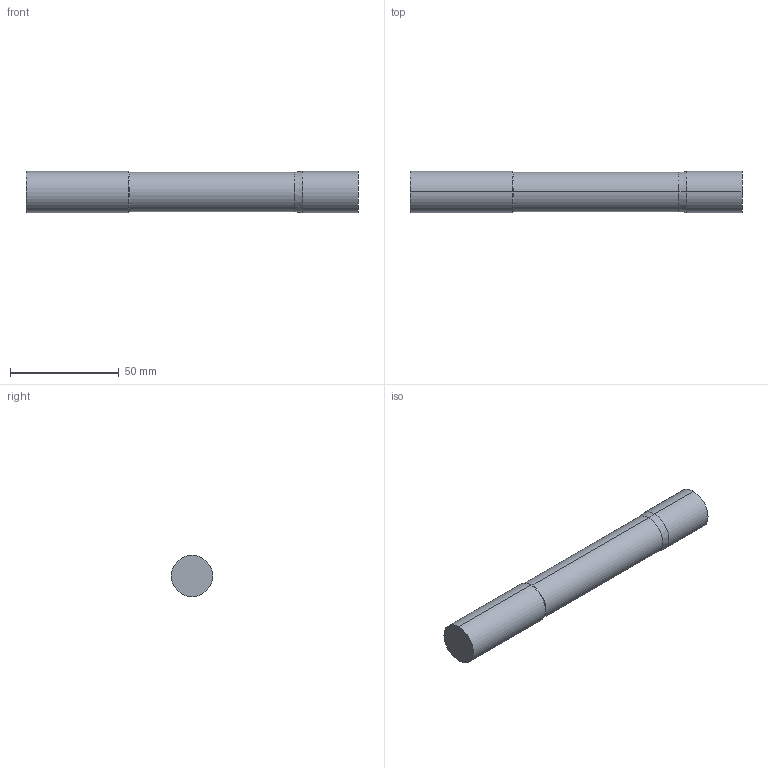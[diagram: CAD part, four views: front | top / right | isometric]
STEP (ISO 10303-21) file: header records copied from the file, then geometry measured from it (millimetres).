
FILE_DESCRIPTION (( 'STEP AP214' ), '1' );
FILE_NAME ('SSIRNX70750-000.STEP', '2025-05-30T15:12:31', ( '' ), ( '' ), 'SwSTEP 2.0', 'SolidWorks 2023', '' );
FILE_SCHEMA (( 'AUTOMOTIVE_DESIGN' ));
Length unit declared in the file: inch
Products named in the file (3): SSI7 Cut Only_SSIRNX70750-000; SSIRNX70750-000; SSI7 Shank Only_SSIRNX70750-000
Assembly tree (2 placements, depth 2):
  SSIRNX70750-000
    SSI7 Cut Only_SSIRNX70750-000
    SSI7 Shank Only_SSIRNX70750-000
Bounding box: 152.4 x 19.05 x 19.05 mm (x, y, z)
Volume: 41411.8 mm3; surface area: 10051.7 mm2
Topology: 2 solids, 2 shells, 14 faces, 24 edges, 14 vertices
Faces by surface type: cylinder 6, plane 4, cone 4
Entity records: 432 total; most frequent: DIRECTION 76, CARTESIAN_POINT 57, ORIENTED_EDGE 48, AXIS2_PLACEMENT_3D 33, EDGE_CURVE 24, FACE_OUTER_BOUND 14, VERTEX_POINT 14, ADVANCED_FACE 14
